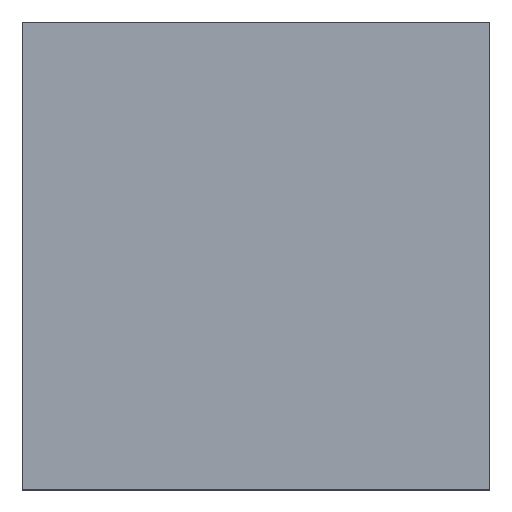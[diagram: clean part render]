
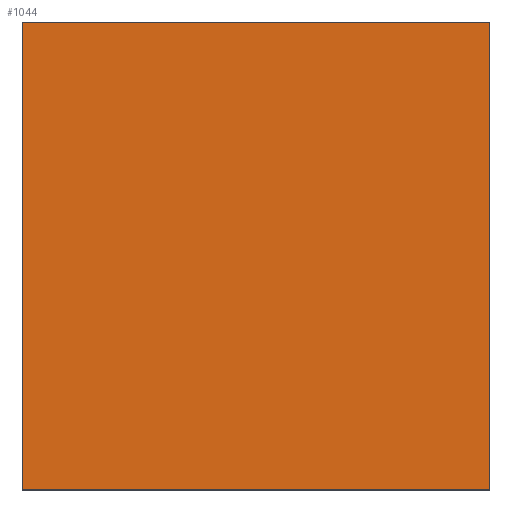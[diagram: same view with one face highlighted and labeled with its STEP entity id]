
A CAD part, top view. The second image highlights one B-rep face of the part: STEP entity #1044.
In plain terms, the highlighted planar face has unit normal (0, 0, 1).
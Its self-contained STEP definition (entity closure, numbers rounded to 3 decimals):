
#25 = VECTOR ( 'NONE', #381, 1000. ) ;
#43 = ORIENTED_EDGE ( 'NONE', *, *, #174, .T. ) ;
#71 = DIRECTION ( 'NONE',  ( 0., 0., -1. ) ) ;
#73 = CARTESIAN_POINT ( 'NONE',  ( 0., 45., 12.5 ) ) ;
#83 = VECTOR ( 'NONE', #1034, 1000. ) ;
#89 = VERTEX_POINT ( 'NONE', #372 ) ;
#115 = EDGE_LOOP ( 'NONE', ( #273, #621, #794, #43 ) ) ;
#133 = CARTESIAN_POINT ( 'NONE',  ( 0., 0., 12.5 ) ) ;
#151 = DIRECTION ( 'NONE',  ( 0., -1., 0. ) ) ;
#174 = EDGE_CURVE ( 'NONE', #702, #358, #464, .T. ) ;
#184 = LINE ( 'NONE', #758, #935 ) ;
#216 = PLANE ( 'NONE',  #306 ) ;
#240 = EDGE_CURVE ( 'NONE', #358, #89, #967, .T. ) ;
#273 = ORIENTED_EDGE ( 'NONE', *, *, #240, .T. ) ;
#277 = EDGE_CURVE ( 'NONE', #89, #439, #386, .T. ) ;
#306 = AXIS2_PLACEMENT_3D ( 'NONE', #133, #71, #636 ) ;
#358 = VERTEX_POINT ( 'NONE', #896 ) ;
#372 = CARTESIAN_POINT ( 'NONE',  ( 0., 0., 12.5 ) ) ;
#381 = DIRECTION ( 'NONE',  ( -1., 0., 0. ) ) ;
#386 = LINE ( 'NONE', #707, #83 ) ;
#430 = VECTOR ( 'NONE', #151, 1000. ) ;
#439 = VERTEX_POINT ( 'NONE', #492 ) ;
#464 = LINE ( 'NONE', #73, #25 ) ;
#466 = FACE_OUTER_BOUND ( 'NONE', #115, .T. ) ;
#492 = CARTESIAN_POINT ( 'NONE',  ( 45., 0., 12.5 ) ) ;
#515 = EDGE_CURVE ( 'NONE', #439, #702, #184, .T. ) ;
#528 = DIRECTION ( 'NONE',  ( 0., 1., 0. ) ) ;
#557 = CARTESIAN_POINT ( 'NONE',  ( 45., 45., 12.5 ) ) ;
#621 = ORIENTED_EDGE ( 'NONE', *, *, #277, .T. ) ;
#636 = DIRECTION ( 'NONE',  ( -1., 0., 0. ) ) ;
#702 = VERTEX_POINT ( 'NONE', #557 ) ;
#707 = CARTESIAN_POINT ( 'NONE',  ( 0., 0., 12.5 ) ) ;
#758 = CARTESIAN_POINT ( 'NONE',  ( 45., 0., 12.5 ) ) ;
#794 = ORIENTED_EDGE ( 'NONE', *, *, #515, .T. ) ;
#874 = CARTESIAN_POINT ( 'NONE',  ( 0., 0., 12.5 ) ) ;
#896 = CARTESIAN_POINT ( 'NONE',  ( 0., 45., 12.5 ) ) ;
#935 = VECTOR ( 'NONE', #528, 1000. ) ;
#967 = LINE ( 'NONE', #874, #430 ) ;
#1034 = DIRECTION ( 'NONE',  ( 1., 0., 0. ) ) ;
#1044 = ADVANCED_FACE ( 'NONE', ( #466 ), #216, .F. ) ;
